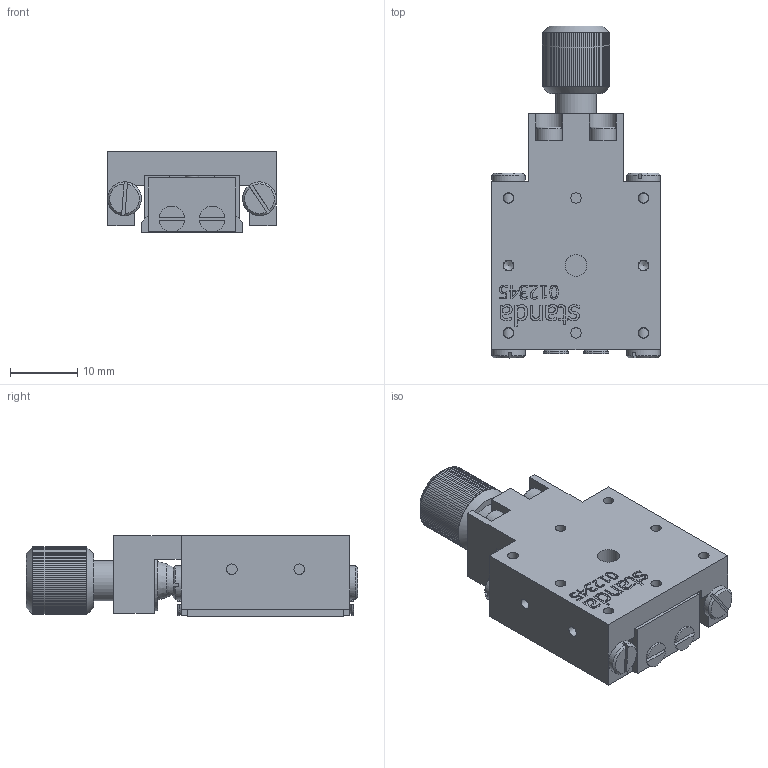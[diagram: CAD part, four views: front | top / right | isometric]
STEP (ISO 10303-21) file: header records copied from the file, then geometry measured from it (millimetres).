
FILE_DESCRIPTION(/* description */ (''),/* implementation_level */ '2;1');
FILE_NAME(/* name */ 'C:\Users\dsgn39\Desktop\Internetui\7T128\7T128.stp',/* time_stamp */ '2018-02-22T15:46:48+02:00',/* author */ ('dsgn39'),/* organization */ (''),/* preprocessor_version */ 'ST-DEVELOPER v15.2',/* originating_system */ 'Autodesk Inventor 2014',/* authorisation */ '');
FILE_SCHEMA (('AUTOMOTIVE_DESIGN { 1 0 10303 214 3 1 1 }'));
Length unit declared in the file: millimetre
Products named in the file (2): Part62; Assembly3
Bounding box: 25 x 49.2 x 12 mm (x, y, z)
Surface area: 6049.2 mm2
Topology: 7 solids, 9 shells, 793 faces, 1985 edges, 1239 vertices
Faces by surface type: plane 558, bspline 126, cylinder 64, cone 39, torus 4, sphere 2
Full cylindrical faces by diameter (mm): 1.5 x6, 1.567 x14, 2 x7, 2.2 x6, 3.1 x1, 3.242 x2, 3.8 x2, 4.76 x2, 5 x5, 5.459 x1, 6 x1, 8 x1, 9 x1
Entity records: 23356 total; most frequent: CARTESIAN_POINT 5756, ORIENTED_EDGE 3728, DIRECTION 3276, EDGE_CURVE 1863, VERTEX_POINT 1195, LINE 1178, VECTOR 1178, AXIS2_PLACEMENT_3D 1049
